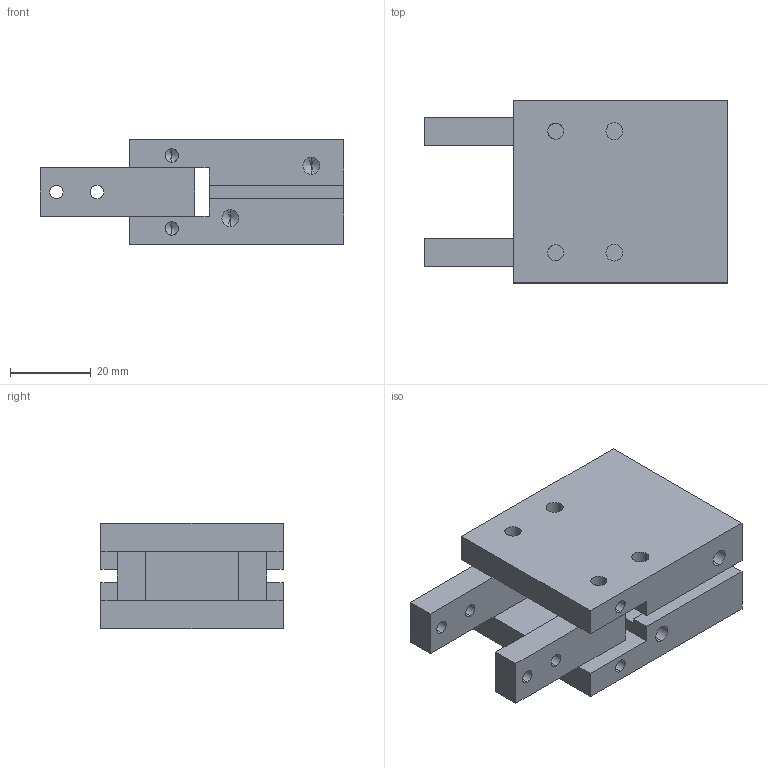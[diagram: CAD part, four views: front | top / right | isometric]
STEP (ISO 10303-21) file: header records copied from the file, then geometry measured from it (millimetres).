
FILE_DESCRIPTION (( 'STEP AP203' ), '1' );
FILE_NAME ('FCHY-20.STEP', '2016-03-29T06:22:11', ( 'Sam Lin' ), ( '' ), 'SwSTEP 2.0', 'SolidWorks 2013', '' );
FILE_SCHEMA (( 'CONFIG_CONTROL_DESIGN' ));
Length unit declared in the file: millimetre
Products named in the file (1): FCHY-20
Bounding box: 75 x 45 x 26 mm (x, y, z)
Volume: 51898.4 mm3; surface area: 17038 mm2
Topology: 1 solids, 1 shells, 113 faces, 302 edges, 182 vertices
Faces by surface type: cylinder 50, plane 43, cone 20
Entity records: 3913 total; most frequent: CARTESIAN_POINT 1042, DIRECTION 578, ORIENTED_EDGE 564, EDGE_CURVE 282, AXIS2_PLACEMENT_3D 198, VERTEX_POINT 182, LINE 182, VECTOR 182
